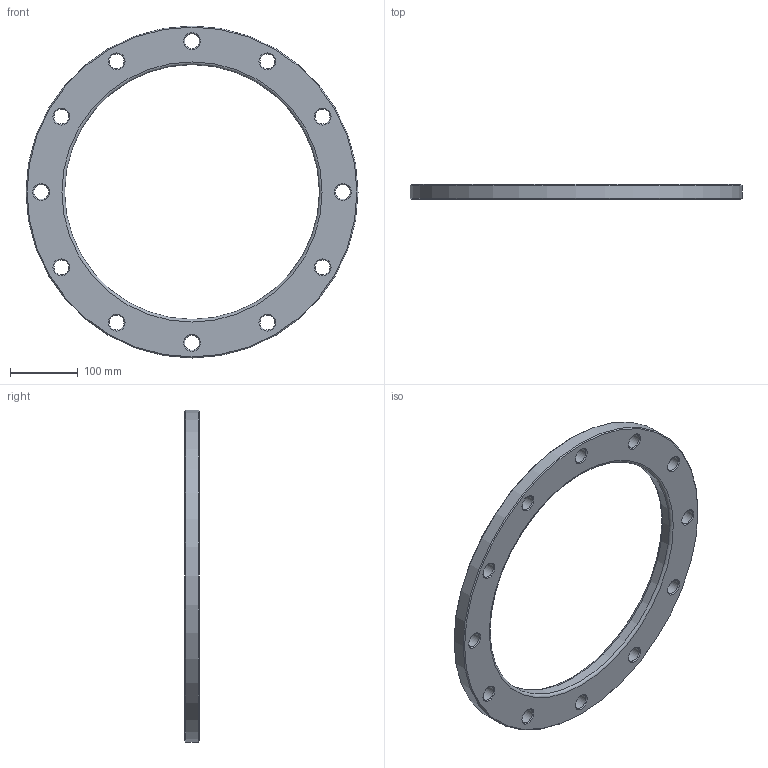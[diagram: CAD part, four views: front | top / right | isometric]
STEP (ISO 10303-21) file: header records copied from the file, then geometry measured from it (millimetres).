
FILE_DESCRIPTION(/* description */ ('Unknown'),/* implementation_level */ '2;1');
FILE_NAME(/* name */ 'FZ355A',/* time_stamp */ '2021-03-13T11:53:38+01:00',/* author */ ('Unknown'),/* organization */ ('Unknown'),/* preprocessor_version */ 'ST-DEVELOPER v16.7',/* originating_system */ 'Solid Edge',/* authorisation */ 'Unknown');
FILE_SCHEMA (('AUTOMOTIVE_DESIGN {1 0 10303 214 3 1 1}'));
Length unit declared in the file: millimetre
Products named in the file (1): FZ355A
Bounding box: 490 x 22 x 490 mm (x, y, z)
Volume: 1591915.3 mm3; surface area: 215912.1 mm2
Topology: 1 solids, 1 shells, 44 faces, 134 edges, 92 vertices
Faces by surface type: cone 26, cylinder 14, plane 2, torus 2
Full cylindrical faces by diameter (mm): 22 x12, 376 x1, 490 x1
Entity records: 1086 total; most frequent: DIRECTION 202, CARTESIAN_POINT 157, ORIENTED_EDGE 112, EDGE_LOOP 112, FACE_BOUND 112, AXIS2_PLACEMENT_3D 101, EDGE_CURVE 56, VERTEX_POINT 56
